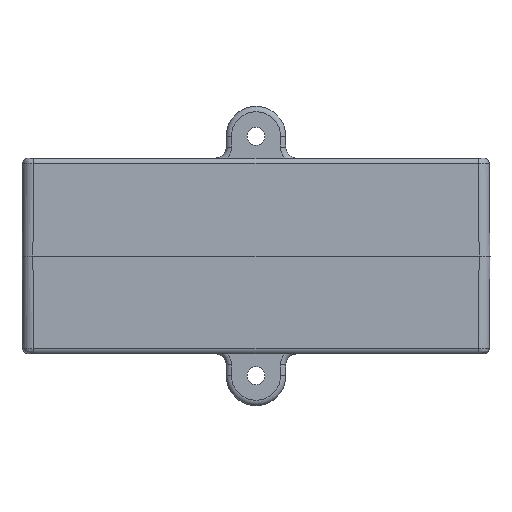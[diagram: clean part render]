
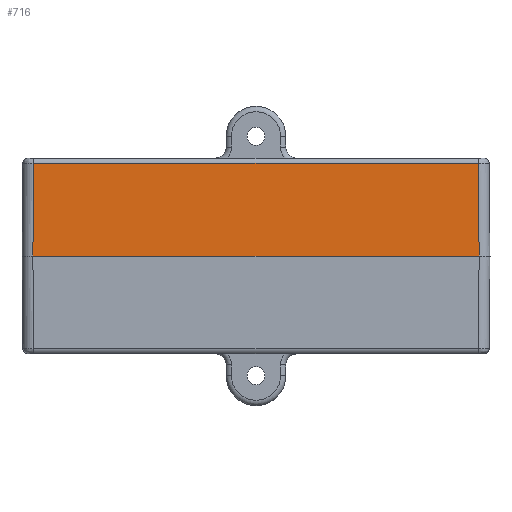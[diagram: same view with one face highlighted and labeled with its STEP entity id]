
A CAD part, front view. The second image highlights one B-rep face of the part: STEP entity #716.
In plain terms, the highlighted planar face has unit normal (0, -1, 0.009).
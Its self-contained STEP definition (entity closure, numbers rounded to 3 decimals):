
#716=ADVANCED_FACE('',(#2106),#1500,.T.);
#1500=PLANE('',#15587);
#2106=FACE_OUTER_BOUND('',#2891,.T.);
#2891=EDGE_LOOP('',(#4328,#4329,#4330,#4331));
#4328=ORIENTED_EDGE('',*,*,#9730,.F.);
#4329=ORIENTED_EDGE('',*,*,#10198,.T.);
#4330=ORIENTED_EDGE('',*,*,#10199,.T.);
#4331=ORIENTED_EDGE('',*,*,#10200,.T.);
#8265=VERTEX_POINT('',#20733);
#8266=VERTEX_POINT('',#20735);
#8708=VERTEX_POINT('',#21831);
#8709=VERTEX_POINT('',#21833);
#9730=EDGE_CURVE('',#8265,#8266,#11932,.T.);
#10198=EDGE_CURVE('',#8265,#8708,#12294,.T.);
#10199=EDGE_CURVE('',#8708,#8709,#12295,.T.);
#10200=EDGE_CURVE('',#8709,#8266,#12296,.T.);
#11932=LINE('',#20734,#13732);
#12294=LINE('',#21830,#14094);
#12295=LINE('',#21832,#14095);
#12296=LINE('',#21834,#14096);
#13732=VECTOR('',#16661,1.);
#14094=VECTOR('',#17239,1.);
#14095=VECTOR('',#17240,1.);
#14096=VECTOR('',#17241,1.);
#15587=AXIS2_PLACEMENT_3D('',#21835,#17242,#17243);
#16661=DIRECTION('',(-1.,0.,0.));
#17239=DIRECTION('',(-0.009,0.009,1.));
#17240=DIRECTION('',(-1.,0.,0.));
#17241=DIRECTION('',(-0.009,-0.009,-1.));
#17242=DIRECTION('',(0.,-1.,0.009));
#17243=DIRECTION('',(0.,-0.009,-1.));
#20733=CARTESIAN_POINT('',(41.,-47.012,0.));
#20734=CARTESIAN_POINT('',(41.,-47.012,0.));
#20735=CARTESIAN_POINT('',(-41.,-47.012,0.));
#21830=CARTESIAN_POINT('',(40.994,-47.006,0.715));
#21831=CARTESIAN_POINT('',(40.852,-46.863,17.009));
#21832=CARTESIAN_POINT('',(-40.843,-46.863,17.009));
#21833=CARTESIAN_POINT('',(-40.852,-46.863,17.009));
#21834=CARTESIAN_POINT('',(-40.994,-47.006,0.715));
#21835=CARTESIAN_POINT('',(41.,-47.012,0.));
